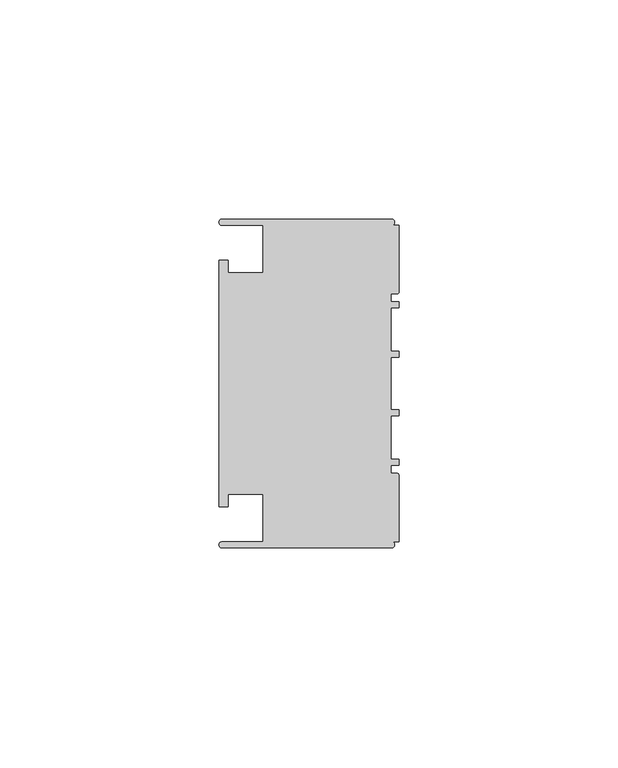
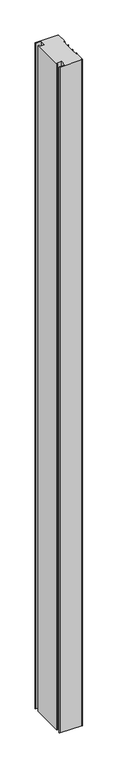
"""IFC4 building model written with IfcOpenShell, lengths in millimetres: member geometry, Прямоугольный импост : 3-AMG-2-Профиль 40Х75 Верх П."""

from ifc_helpers import new_model, si_unit, point, frame, frame_2d, origin, place, context, project, spatial, polyline, circle_curve, trimmed, segment, composite_curve, outline, extrude, source, transform, mapped, element, save


def member_bfae6610(model_context):
    return source(origin(), model_context, "Body", "SweptSolid", [
        extrude(outline(composite_curve([segment(polyline([(-1.7, -37.5), (-40.4, -37.5)]), True, "CONTINUOUS"), segment(trimmed(circle_curve(frame_2d((-40.4, -36.8)), 0.7), [point((-40.4, -37.5))], [point((-40.4, -36.1))], False, "CARTESIAN"), True, "CONTINUOUS"), segment(polyline([(-40.4, -36.1), (-31.0, -36.1), (-31.0, -25.25), (-39.0, -25.25), (-39.0, -28.1), (-41.1, -28.1), (-41.1, 28.1), (-39.0, 28.1), (-39.0, 25.25), (-31.0, 25.25), (-31.0, 36.1), (-40.4, 36.1)]), True, "CONTINUOUS"), segment(trimmed(circle_curve(frame_2d((-40.4, 36.8)), 0.7), [point((-40.4, 36.1))], [point((-40.4, 37.5))], False, "CARTESIAN"), True, "CONTINUOUS"), segment(polyline([(-40.4, 37.5), (-1.7, 37.5)]), True, "CONTINUOUS"), segment(trimmed(circle_curve(frame_2d((-1.7, 36.8)), 0.7), [point((-1.7, 37.5))], [point((-1.7, 36.1))], False, "CARTESIAN"), True, "CONTINUOUS"), segment(polyline([(-1.7, 36.1), (0.0, 36.1), (0.0, 20.95)]), True, "CONTINUOUS"), segment(trimmed(circle_curve(frame_2d((-0.5, 20.95)), 0.5), [point((0.0, 20.95))], [point((-0.5, 20.45))], False, "CARTESIAN"), True, "CONTINUOUS"), segment(polyline([(-0.5, 20.45), (-1.8, 20.45), (-1.8, 18.65), (0.0, 18.65), (0.0, 17.25), (-1.8, 17.25), (-1.8, 7.4), (0.0, 7.4), (0.0, 6.0), (-1.8, 6.0), (-1.8, -6.0), (0.0, -6.0), (0.0, -7.4), (-1.8, -7.4), (-1.8, -17.25), (0.0, -17.25), (0.0, -18.65), (-1.8, -18.65), (-1.8, -20.45), (-0.5, -20.45)]), True, "CONTINUOUS"), segment(trimmed(circle_curve(frame_2d((-0.5, -20.95)), 0.5), [point((-0.5, -20.45))], [point((0.0, -20.95))], False, "CARTESIAN"), True, "CONTINUOUS"), segment(polyline([(0.0, -20.95), (0.0, -36.1), (-1.7, -36.1)]), True, "CONTINUOUS"), segment(trimmed(circle_curve(frame_2d((-1.7, -36.8)), 0.7), [point((-1.7, -36.1))], [point((-1.7, -37.5))], False, "CARTESIAN"), True, "CONTINUOUS")], self_intersect=False)), frame((0.0, 0.0, -1225.0), z_axis=(0.0, 0.0, 1.0), x_axis=(1.0, 0.0, 0.0)), (0.0, 0.0, 1.0), 1225.0),
    ])


if __name__ == "__main__":
    model = new_model("IFC4")
    model_context = context("Model", 3, world=origin())
    ifc_project = project(units=[si_unit("LENGTHUNIT", "METRE", prefix="MILLI")], contexts=[model_context])
    site = spatial("IfcSite", under=ifc_project)
    building = spatial("IfcBuilding", under=site)
    placement = place(None, origin())
    member_shape = member_bfae6610(model_context)
    element("IfcMember", 1, ObjectType="Прямоугольный импост : 3-AMG-2-Профиль 40Х75 Верх П", at=placement, inside=building, context=model_context, shape_type="MappedRepresentation", body=[
        mapped(member_shape, transform((0.0, 0.0, 0.0), x_axis=(1.0, 0.0, 0.0), y_axis=(0.0, 1.0, 0.0), z_axis=(0.0, 0.0, 1.0))),
    ])
    save(model, "model.ifc")
